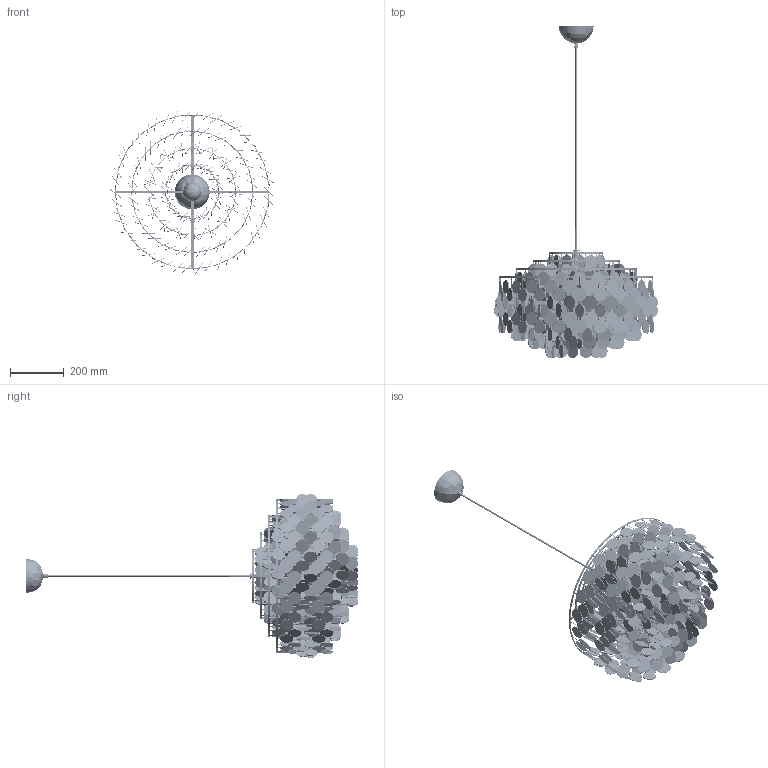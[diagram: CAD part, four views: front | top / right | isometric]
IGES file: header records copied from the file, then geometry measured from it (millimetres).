
Start section: SolidWorks IGES file using analytic representation for surfaces
Global section: file name: C:\Users\Chiina\Desktop\Chiina\Dokumendid\Frandsen Project\VerPan\FUN 10 DM\FUN 10DM Assembly.IGS; native system: SolidWorks 2013; preprocessor: SolidWorks 2013; author: Chiina; date: 130127.184409; units: millimetre
Bounding box: 611.26 x 1238.95 x 611.65 mm (x, y, z)
Surface area: 2934917.9 mm2 (no closed solid volume)
Topology: 0 solids, 0 shells, 5034 faces, 127560 edges, 127548 vertices
Faces by surface type: revolution 3340, bspline 1694
